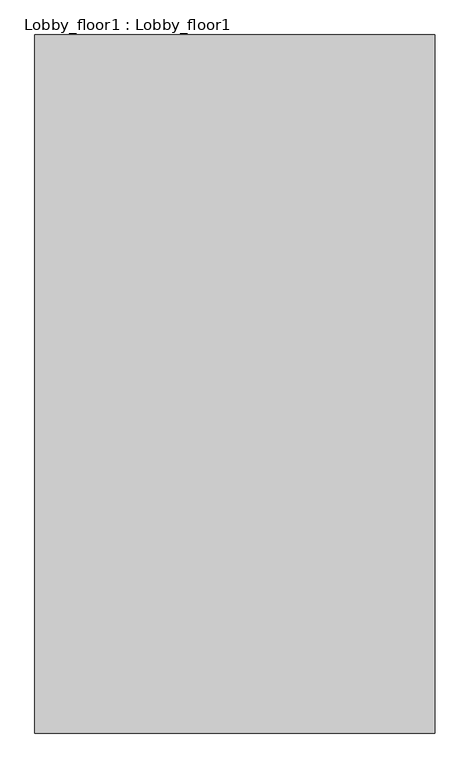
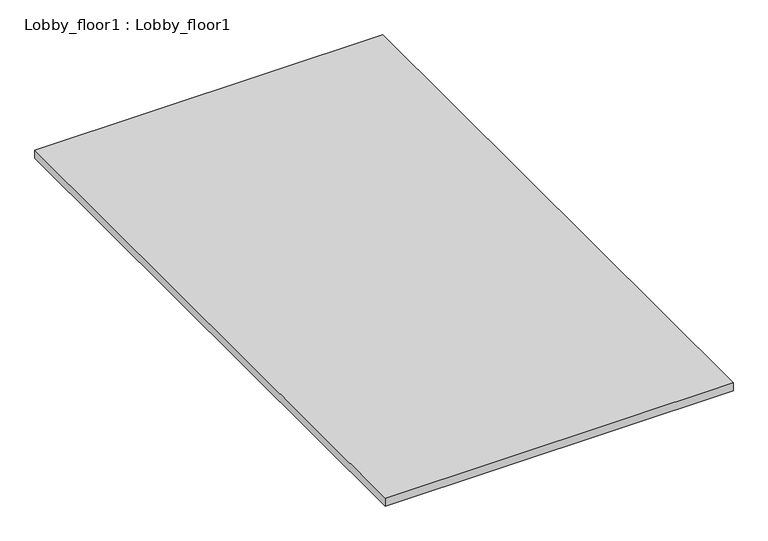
"""IFC4 building model written with IfcOpenShell, lengths in millimetres: proxy geometry, Lobby_floor1 : Lobby_floor1."""

from ifc_helpers import new_model, si_unit, origin, origin_with_axes, place, context, project, spatial, polyline, outline, extrude, source, transform, mapped, element, save


def lobby_floor1_lobby_floor1_8a2bf536(model_context):
    return source(origin(), model_context, "Body", "SweptSolid", [
        extrude(outline(polyline([(625.0, 1090.0), (625.0, -1090.0), (-625.0, -1090.0), (-625.0, 1090.0), (625.0, 1090.0)])), origin_with_axes(), (0.0, 0.0, 1.0), 30.0),
    ])


if __name__ == "__main__":
    model = new_model("IFC4")
    model_context = context("Model", 3, world=origin())
    ifc_project = project(units=[si_unit("LENGTHUNIT", "METRE", prefix="MILLI")], contexts=[model_context])
    site = spatial("IfcSite", under=ifc_project)
    building = spatial("IfcBuilding", under=site)
    placement = place(None, origin())
    lobby_floor1_lobby_floor1_shape = lobby_floor1_lobby_floor1_8a2bf536(model_context)
    element("IfcBuildingElementProxy", 1, Name="Lobby_floor1 : Lobby_floor1", ObjectType="Lobby_floor1 : Lobby_floor1", at=placement, inside=building, context=model_context, shape_type="MappedRepresentation", body=[
        mapped(lobby_floor1_lobby_floor1_shape, transform((0.0, 0.0, 0.0), x_axis=(1.0, 0.0, 0.0), y_axis=(0.0, 1.0, 0.0), z_axis=(0.0, 0.0, 1.0))),
    ])
    save(model, "model.ifc")
